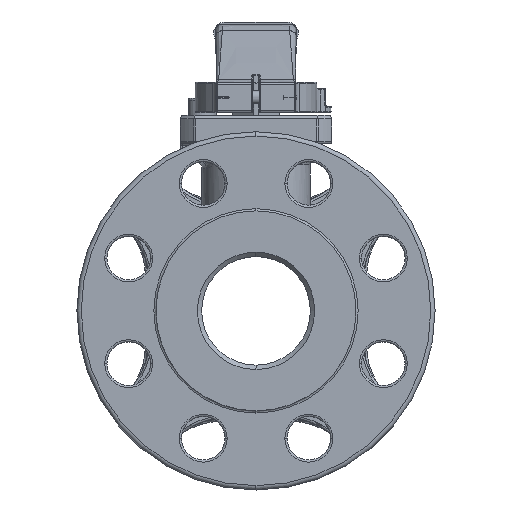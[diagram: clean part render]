
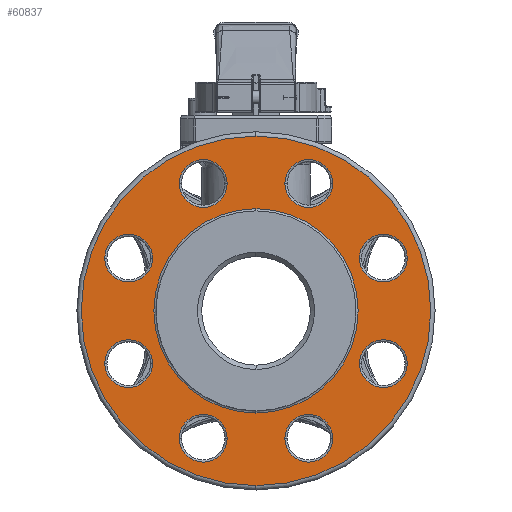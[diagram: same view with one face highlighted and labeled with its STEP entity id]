
A CAD part, left-side view. The second image highlights one B-rep face of the part: STEP entity #60837.
In plain terms, the highlighted planar face has unit normal (-1, 0, 0).
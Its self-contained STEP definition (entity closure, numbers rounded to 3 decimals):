
#1051=CARTESIAN_POINT('',(-88.4,0.,0.));
#1052=DIRECTION('',(-1.,0.,0.));
#1053=DIRECTION('',(0.,0.,1.));
#1054=AXIS2_PLACEMENT_3D('',#1051,#1052,#1053);
#1071=CARTESIAN_POINT('',(-88.4,0.,0.));
#1072=DIRECTION('',(1.,0.,0.));
#1073=DIRECTION('',(0.,0.,-1.));
#1074=AXIS2_PLACEMENT_3D('',#1071,#1072,#1073);
#1094=CARTESIAN_POINT('',(-88.4,0.,0.));
#1095=DIRECTION('',(1.,0.,0.));
#1096=DIRECTION('',(0.,0.,1.));
#1097=AXIS2_PLACEMENT_3D('',#1094,#1095,#1096);
#48484=CARTESIAN_POINT('',(-88.4,-24.3,58.666));
#48485=DIRECTION('',(1.,0.,0.));
#48486=DIRECTION('',(0.,-1.,0.));
#48487=AXIS2_PLACEMENT_3D('',#48484,#48485,#48486);
#48499=CARTESIAN_POINT('',(-88.4,-24.3,58.666));
#48500=DIRECTION('',(1.,0.,0.));
#48501=DIRECTION('',(0.,1.,0.));
#48502=AXIS2_PLACEMENT_3D('',#48499,#48500,#48501);
#48552=CARTESIAN_POINT('',(-88.4,-24.3,-58.666));
#48553=DIRECTION('',(1.,0.,0.));
#48554=DIRECTION('',(0.,-1.,0.));
#48555=AXIS2_PLACEMENT_3D('',#48552,#48553,#48554);
#48567=CARTESIAN_POINT('',(-88.4,-24.3,-58.666));
#48568=DIRECTION('',(1.,0.,0.));
#48569=DIRECTION('',(0.,1.,0.));
#48570=AXIS2_PLACEMENT_3D('',#48567,#48568,#48569);
#48620=CARTESIAN_POINT('',(-88.4,-58.666,24.3));
#48621=DIRECTION('',(1.,0.,0.));
#48622=DIRECTION('',(0.,-1.,0.));
#48623=AXIS2_PLACEMENT_3D('',#48620,#48621,#48622);
#48635=CARTESIAN_POINT('',(-88.4,-58.666,24.3));
#48636=DIRECTION('',(1.,0.,0.));
#48637=DIRECTION('',(0.,1.,0.));
#48638=AXIS2_PLACEMENT_3D('',#48635,#48636,#48637);
#48688=CARTESIAN_POINT('',(-88.4,-58.666,-24.3));
#48689=DIRECTION('',(1.,0.,0.));
#48690=DIRECTION('',(0.,-1.,0.));
#48691=AXIS2_PLACEMENT_3D('',#48688,#48689,#48690);
#48703=CARTESIAN_POINT('',(-88.4,-58.666,-24.3));
#48704=DIRECTION('',(1.,0.,0.));
#48705=DIRECTION('',(0.,1.,0.));
#48706=AXIS2_PLACEMENT_3D('',#48703,#48704,#48705);
#48756=CARTESIAN_POINT('',(-88.4,24.3,58.666));
#48757=DIRECTION('',(1.,0.,0.));
#48758=DIRECTION('',(0.,-1.,0.));
#48759=AXIS2_PLACEMENT_3D('',#48756,#48757,#48758);
#48771=CARTESIAN_POINT('',(-88.4,24.3,58.666));
#48772=DIRECTION('',(1.,0.,0.));
#48773=DIRECTION('',(0.,1.,0.));
#48774=AXIS2_PLACEMENT_3D('',#48771,#48772,#48773);
#48824=CARTESIAN_POINT('',(-88.4,58.666,24.3));
#48825=DIRECTION('',(1.,0.,0.));
#48826=DIRECTION('',(0.,1.,0.));
#48827=AXIS2_PLACEMENT_3D('',#48824,#48825,#48826);
#48839=CARTESIAN_POINT('',(-88.4,58.666,24.3));
#48840=DIRECTION('',(1.,0.,0.));
#48841=DIRECTION('',(0.,-1.,0.));
#48842=AXIS2_PLACEMENT_3D('',#48839,#48840,#48841);
#48892=CARTESIAN_POINT('',(-88.4,58.666,-24.3));
#48893=DIRECTION('',(1.,0.,0.));
#48894=DIRECTION('',(0.,-1.,0.));
#48895=AXIS2_PLACEMENT_3D('',#48892,#48893,#48894);
#48907=CARTESIAN_POINT('',(-88.4,58.666,-24.3));
#48908=DIRECTION('',(1.,0.,0.));
#48909=DIRECTION('',(0.,1.,0.));
#48910=AXIS2_PLACEMENT_3D('',#48907,#48908,#48909);
#48960=CARTESIAN_POINT('',(-88.4,24.3,-58.666));
#48961=DIRECTION('',(1.,0.,0.));
#48962=DIRECTION('',(0.,-1.,0.));
#48963=AXIS2_PLACEMENT_3D('',#48960,#48961,#48962);
#48975=CARTESIAN_POINT('',(-88.4,24.3,-58.666));
#48976=DIRECTION('',(1.,0.,0.));
#48977=DIRECTION('',(0.,1.,0.));
#48978=AXIS2_PLACEMENT_3D('',#48975,#48976,#48977);
#48994=CARTESIAN_POINT('',(-88.4,0.,0.));
#48995=DIRECTION('',(-1.,0.,0.));
#48996=DIRECTION('',(0.,0.,-1.));
#48997=AXIS2_PLACEMENT_3D('',#48994,#48995,#48996);
#49025=CARTESIAN_POINT('',(-88.4,0.,-80.5));
#49026=CARTESIAN_POINT('',(-88.4,0.,80.5));
#49027=VERTEX_POINT('',#49025);
#49028=VERTEX_POINT('',#49026);
#49042=CARTESIAN_POINT('',(-88.4,-35.3,58.666));
#49043=CARTESIAN_POINT('',(-88.4,-13.3,58.666));
#49044=VERTEX_POINT('',#49042);
#49045=VERTEX_POINT('',#49043);
#49050=CARTESIAN_POINT('',(-88.4,-35.3,-58.666));
#49051=CARTESIAN_POINT('',(-88.4,-13.3,-58.666));
#49052=VERTEX_POINT('',#49050);
#49053=VERTEX_POINT('',#49051);
#49058=CARTESIAN_POINT('',(-88.4,-47.666,-24.3));
#49059=CARTESIAN_POINT('',(-88.4,-69.666,-24.3));
#49060=VERTEX_POINT('',#49058);
#49061=VERTEX_POINT('',#49059);
#49066=CARTESIAN_POINT('',(-88.4,-47.666,24.3));
#49067=CARTESIAN_POINT('',(-88.4,-69.666,24.3));
#49068=VERTEX_POINT('',#49066);
#49069=VERTEX_POINT('',#49067);
#50749=CARTESIAN_POINT('',(-88.4,35.3,58.666));
#50750=CARTESIAN_POINT('',(-88.4,13.3,58.666));
#50751=VERTEX_POINT('',#50749);
#50752=VERTEX_POINT('',#50750);
#50757=CARTESIAN_POINT('',(-88.4,47.666,24.3));
#50758=CARTESIAN_POINT('',(-88.4,69.666,24.3));
#50759=VERTEX_POINT('',#50757);
#50760=VERTEX_POINT('',#50758);
#50765=CARTESIAN_POINT('',(-88.4,47.666,-24.3));
#50766=CARTESIAN_POINT('',(-88.4,69.666,-24.3));
#50767=VERTEX_POINT('',#50765);
#50768=VERTEX_POINT('',#50766);
#50773=CARTESIAN_POINT('',(-88.4,35.3,-58.666));
#50774=CARTESIAN_POINT('',(-88.4,13.3,-58.666));
#50775=VERTEX_POINT('',#50773);
#50776=VERTEX_POINT('',#50774);
#50881=CARTESIAN_POINT('',(-88.4,0.,-47.05));
#50882=CARTESIAN_POINT('',(-88.4,0.,47.05));
#50883=VERTEX_POINT('',#50881);
#50884=VERTEX_POINT('',#50882);
#60773=CARTESIAN_POINT('',(-88.4,0.,0.));
#60774=DIRECTION('',(-1.,0.,0.));
#60775=DIRECTION('',(0.,0.,1.));
#60776=AXIS2_PLACEMENT_3D('',#60773,#60774,#60775);
#60777=PLANE('',#60776);
#60779=ORIENTED_EDGE('',*,*,#60778,.T.);
#60781=ORIENTED_EDGE('',*,*,#60780,.T.);
#60782=EDGE_LOOP('',(#60779,#60781));
#60783=FACE_OUTER_BOUND('',#60782,.F.);
#60785=ORIENTED_EDGE('',*,*,#60784,.T.);
#60786=ORIENTED_EDGE('',*,*,#60763,.T.);
#60787=EDGE_LOOP('',(#60785,#60786));
#60788=FACE_BOUND('',#60787,.F.);
#60790=ORIENTED_EDGE('',*,*,#60789,.F.);
#60792=ORIENTED_EDGE('',*,*,#60791,.F.);
#60793=EDGE_LOOP('',(#60790,#60792));
#60794=FACE_BOUND('',#60793,.F.);
#60796=ORIENTED_EDGE('',*,*,#60795,.F.);
#60798=ORIENTED_EDGE('',*,*,#60797,.F.);
#60799=EDGE_LOOP('',(#60796,#60798));
#60800=FACE_BOUND('',#60799,.F.);
#60802=ORIENTED_EDGE('',*,*,#60801,.F.);
#60804=ORIENTED_EDGE('',*,*,#60803,.F.);
#60805=EDGE_LOOP('',(#60802,#60804));
#60806=FACE_BOUND('',#60805,.F.);
#60808=ORIENTED_EDGE('',*,*,#60807,.F.);
#60810=ORIENTED_EDGE('',*,*,#60809,.F.);
#60811=EDGE_LOOP('',(#60808,#60810));
#60812=FACE_BOUND('',#60811,.F.);
#60814=ORIENTED_EDGE('',*,*,#60813,.F.);
#60816=ORIENTED_EDGE('',*,*,#60815,.F.);
#60817=EDGE_LOOP('',(#60814,#60816));
#60818=FACE_BOUND('',#60817,.F.);
#60820=ORIENTED_EDGE('',*,*,#60819,.F.);
#60822=ORIENTED_EDGE('',*,*,#60821,.F.);
#60823=EDGE_LOOP('',(#60820,#60822));
#60824=FACE_BOUND('',#60823,.F.);
#60826=ORIENTED_EDGE('',*,*,#60825,.F.);
#60828=ORIENTED_EDGE('',*,*,#60827,.F.);
#60829=EDGE_LOOP('',(#60826,#60828));
#60830=FACE_BOUND('',#60829,.F.);
#60832=ORIENTED_EDGE('',*,*,#60831,.F.);
#60834=ORIENTED_EDGE('',*,*,#60833,.F.);
#60835=EDGE_LOOP('',(#60832,#60834));
#60836=FACE_BOUND('',#60835,.F.);
#60837=ADVANCED_FACE('',(#60783,#60788,#60794,#60800,#60806,#60812,#60818,
#60824,#60830,#60836),#60777,.T.);
#1055=CIRCLE('',#1054,47.05);
#1075=CIRCLE('',#1074,80.5);
#1098=CIRCLE('',#1097,80.5);
#48488=CIRCLE('',#48487,11.);
#48503=CIRCLE('',#48502,11.);
#48556=CIRCLE('',#48555,11.);
#48571=CIRCLE('',#48570,11.);
#48624=CIRCLE('',#48623,11.);
#48639=CIRCLE('',#48638,11.);
#48692=CIRCLE('',#48691,11.);
#48707=CIRCLE('',#48706,11.);
#48760=CIRCLE('',#48759,11.);
#48775=CIRCLE('',#48774,11.);
#48828=CIRCLE('',#48827,11.);
#48843=CIRCLE('',#48842,11.);
#48896=CIRCLE('',#48895,11.);
#48911=CIRCLE('',#48910,11.);
#48964=CIRCLE('',#48963,11.);
#48979=CIRCLE('',#48978,11.);
#48998=CIRCLE('',#48997,47.05);
#60763=EDGE_CURVE('',#50884,#50883,#1055,.T.);
#60778=EDGE_CURVE('',#49027,#49028,#1075,.T.);
#60780=EDGE_CURVE('',#49028,#49027,#1098,.T.);
#60784=EDGE_CURVE('',#50883,#50884,#48998,.T.);
#60789=EDGE_CURVE('',#49044,#49045,#48488,.T.);
#60791=EDGE_CURVE('',#49045,#49044,#48503,.T.);
#60795=EDGE_CURVE('',#49052,#49053,#48556,.T.);
#60797=EDGE_CURVE('',#49053,#49052,#48571,.T.);
#60801=EDGE_CURVE('',#49060,#49061,#48707,.T.);
#60803=EDGE_CURVE('',#49061,#49060,#48692,.T.);
#60807=EDGE_CURVE('',#49068,#49069,#48639,.T.);
#60809=EDGE_CURVE('',#49069,#49068,#48624,.T.);
#60813=EDGE_CURVE('',#50751,#50752,#48775,.T.);
#60815=EDGE_CURVE('',#50752,#50751,#48760,.T.);
#60819=EDGE_CURVE('',#50759,#50760,#48843,.T.);
#60821=EDGE_CURVE('',#50760,#50759,#48828,.T.);
#60825=EDGE_CURVE('',#50767,#50768,#48896,.T.);
#60827=EDGE_CURVE('',#50768,#50767,#48911,.T.);
#60831=EDGE_CURVE('',#50775,#50776,#48979,.T.);
#60833=EDGE_CURVE('',#50776,#50775,#48964,.T.);
